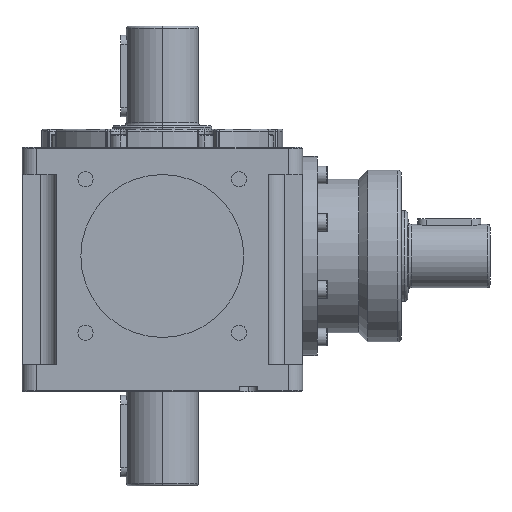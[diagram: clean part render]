
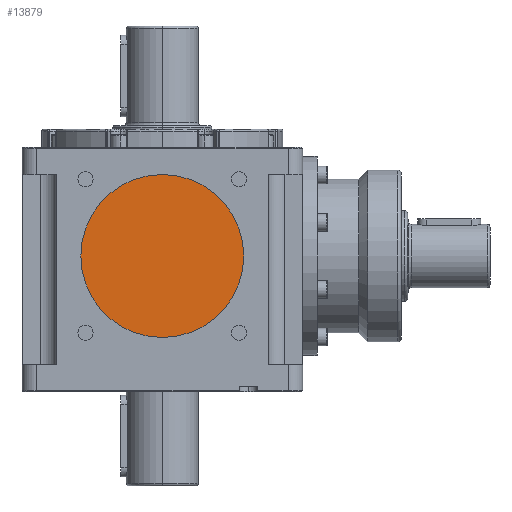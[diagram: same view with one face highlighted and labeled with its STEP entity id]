
A CAD part, left-side view. The second image highlights one B-rep face of the part: STEP entity #13879.
In plain terms, the highlighted planar face has unit normal (-1, 0, 0).
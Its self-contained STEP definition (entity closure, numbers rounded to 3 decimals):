
#1082 = DIRECTION ( 'NONE',  ( -1., 0., 0. ) ) ;
#2433 = DIRECTION ( 'NONE',  ( -1., 0., 0. ) ) ;
#4177 = AXIS2_PLACEMENT_3D ( 'NONE', #14099, #1082, #15365 ) ;
#5710 = FACE_OUTER_BOUND ( 'NONE', #7170, .T. ) ;
#6771 = CIRCLE ( 'NONE', #7032, 45. ) ;
#7032 = AXIS2_PLACEMENT_3D ( 'NONE', #13946, #2433, #7575 ) ;
#7170 = EDGE_LOOP ( 'NONE', ( #10322, #8780 ) ) ;
#7575 = DIRECTION ( 'NONE',  ( 0., -1., 0. ) ) ;
#7957 = DIRECTION ( 'NONE',  ( 0., -1., 0. ) ) ;
#8318 = EDGE_CURVE ( 'NONE', #8959, #14593, #6771, .T. ) ;
#8780 = ORIENTED_EDGE ( 'NONE', *, *, #8318, .T. ) ;
#8803 = EDGE_CURVE ( 'NONE', #14593, #8959, #15779, .T. ) ;
#8959 = VERTEX_POINT ( 'NONE', #15749 ) ;
#9574 = PLANE ( 'NONE',  #4177 ) ;
#10322 = ORIENTED_EDGE ( 'NONE', *, *, #8803, .T. ) ;
#11402 = CARTESIAN_POINT ( 'NONE',  ( -73.5, 0., 0. ) ) ;
#12832 = DIRECTION ( 'NONE',  ( -1., 0., 0. ) ) ;
#13289 = CARTESIAN_POINT ( 'NONE',  ( -73.5, -45., 0. ) ) ;
#13879 = ADVANCED_FACE ( 'NONE', ( #5710 ), #9574, .T. ) ;
#13946 = CARTESIAN_POINT ( 'NONE',  ( -73.5, 0., 0. ) ) ;
#14099 = CARTESIAN_POINT ( 'NONE',  ( -73.5, 0., 0. ) ) ;
#14593 = VERTEX_POINT ( 'NONE', #13289 ) ;
#14669 = AXIS2_PLACEMENT_3D ( 'NONE', #11402, #12832, #7957 ) ;
#15365 = DIRECTION ( 'NONE',  ( 0., -1., 0. ) ) ;
#15749 = CARTESIAN_POINT ( 'NONE',  ( -73.5, 45., 0. ) ) ;
#15779 = CIRCLE ( 'NONE', #14669, 45. ) ;
